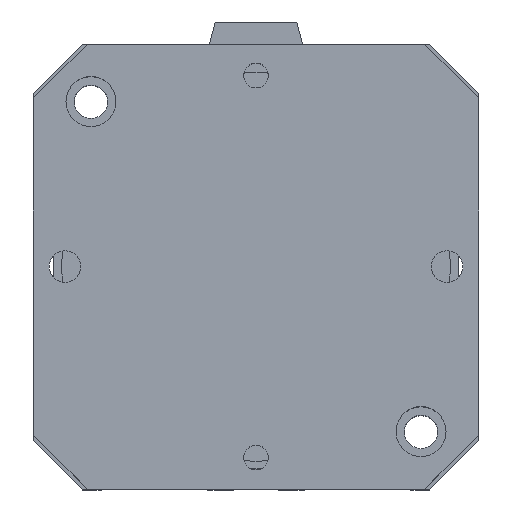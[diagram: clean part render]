
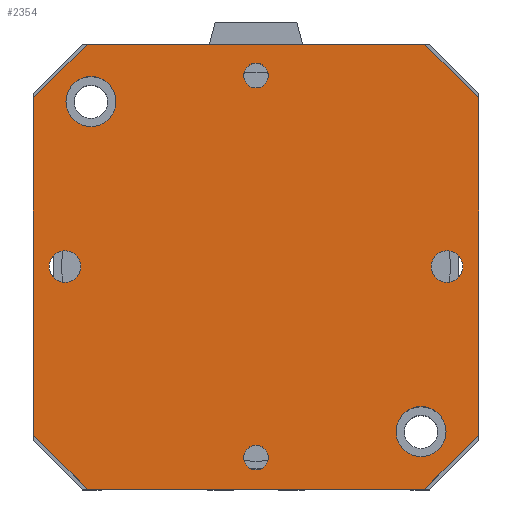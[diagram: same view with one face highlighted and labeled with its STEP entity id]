
A CAD part, top view. The second image highlights one B-rep face of the part: STEP entity #2354.
In plain terms, the highlighted planar face has unit normal (0, 0, 1).
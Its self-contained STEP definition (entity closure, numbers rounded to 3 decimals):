
#221=LINE('',#3869,#429);
#223=LINE('',#3873,#431);
#225=LINE('',#3877,#433);
#227=LINE('',#3881,#435);
#229=LINE('',#3885,#437);
#231=LINE('',#3889,#439);
#233=LINE('',#3893,#441);
#235=LINE('',#3896,#443);
#429=VECTOR('',#3196,91.);
#431=VECTOR('',#3200,20.506);
#433=VECTOR('',#3204,91.);
#435=VECTOR('',#3208,20.506);
#437=VECTOR('',#3212,91.);
#439=VECTOR('',#3216,20.506);
#441=VECTOR('',#3220,91.);
#443=VECTOR('',#3224,20.506);
#537=PLANE('',#2580);
#626=FACE_BOUND('',#956,.T.);
#627=FACE_BOUND('',#957,.T.);
#628=FACE_BOUND('',#958,.T.);
#629=FACE_BOUND('',#959,.T.);
#630=FACE_BOUND('',#960,.T.);
#631=FACE_BOUND('',#961,.T.);
#632=FACE_BOUND('',#962,.T.);
#956=EDGE_LOOP('',(#2134));
#957=EDGE_LOOP('',(#2135));
#958=EDGE_LOOP('',(#2136));
#959=EDGE_LOOP('',(#2137));
#960=EDGE_LOOP('',(#2138));
#961=EDGE_LOOP('',(#2139));
#962=EDGE_LOOP('',(#2140,#2141,#2142,#2143,#2144,#2145,#2146,#2147));
#1035=CIRCLE('',#2536,3.324);
#1037=CIRCLE('',#2539,3.324);
#1042=CIRCLE('',#2547,4.25);
#1046=CIRCLE('',#2554,4.25);
#1055=CIRCLE('',#2569,6.75);
#1056=CIRCLE('',#2571,6.75);
#1235=VERTEX_POINT('',#3787);
#1237=VERTEX_POINT('',#3792);
#1242=VERTEX_POINT('',#3805);
#1246=VERTEX_POINT('',#3816);
#1265=VERTEX_POINT('',#3860);
#1266=VERTEX_POINT('',#3863);
#1267=VERTEX_POINT('',#3866);
#1268=VERTEX_POINT('',#3868);
#1269=VERTEX_POINT('',#3872);
#1270=VERTEX_POINT('',#3876);
#1271=VERTEX_POINT('',#3880);
#1272=VERTEX_POINT('',#3884);
#1273=VERTEX_POINT('',#3888);
#1274=VERTEX_POINT('',#3892);
#1521=EDGE_CURVE('',#1235,#1235,#1035,.T.);
#1523=EDGE_CURVE('',#1237,#1237,#1037,.T.);
#1528=EDGE_CURVE('',#1242,#1242,#1042,.T.);
#1532=EDGE_CURVE('',#1246,#1246,#1046,.T.);
#1551=EDGE_CURVE('',#1265,#1265,#1055,.T.);
#1552=EDGE_CURVE('',#1266,#1266,#1056,.T.);
#1554=EDGE_CURVE('',#1268,#1267,#221,.T.);
#1556=EDGE_CURVE('',#1269,#1268,#223,.T.);
#1558=EDGE_CURVE('',#1270,#1269,#225,.T.);
#1560=EDGE_CURVE('',#1271,#1270,#227,.T.);
#1562=EDGE_CURVE('',#1272,#1271,#229,.T.);
#1564=EDGE_CURVE('',#1273,#1272,#231,.T.);
#1566=EDGE_CURVE('',#1274,#1273,#233,.T.);
#1568=EDGE_CURVE('',#1267,#1274,#235,.T.);
#2134=ORIENTED_EDGE('',*,*,#1521,.T.);
#2135=ORIENTED_EDGE('',*,*,#1523,.T.);
#2136=ORIENTED_EDGE('',*,*,#1528,.T.);
#2137=ORIENTED_EDGE('',*,*,#1532,.T.);
#2138=ORIENTED_EDGE('',*,*,#1551,.T.);
#2139=ORIENTED_EDGE('',*,*,#1552,.T.);
#2140=ORIENTED_EDGE('',*,*,#1568,.T.);
#2141=ORIENTED_EDGE('',*,*,#1566,.T.);
#2142=ORIENTED_EDGE('',*,*,#1564,.T.);
#2143=ORIENTED_EDGE('',*,*,#1562,.T.);
#2144=ORIENTED_EDGE('',*,*,#1560,.T.);
#2145=ORIENTED_EDGE('',*,*,#1558,.T.);
#2146=ORIENTED_EDGE('',*,*,#1556,.T.);
#2147=ORIENTED_EDGE('',*,*,#1554,.T.);
#2354=ADVANCED_FACE('',(#626,#627,#628,#629,#630,#631,#632),#537,.T.);
#2536=AXIS2_PLACEMENT_3D('',#3788,#3111,#3112);
#2539=AXIS2_PLACEMENT_3D('',#3793,#3117,#3118);
#2547=AXIS2_PLACEMENT_3D('',#3806,#3133,#3134);
#2554=AXIS2_PLACEMENT_3D('',#3817,#3147,#3148);
#2569=AXIS2_PLACEMENT_3D('',#3861,#3187,#3188);
#2571=AXIS2_PLACEMENT_3D('',#3864,#3191,#3192);
#2580=AXIS2_PLACEMENT_3D('',#3897,#3225,#3226);
#3111=DIRECTION('center_axis',(0.,0.,-1.));
#3112=DIRECTION('ref_axis',(1.,0.,0.));
#3117=DIRECTION('center_axis',(0.,0.,-1.));
#3118=DIRECTION('ref_axis',(1.,0.,0.));
#3133=DIRECTION('center_axis',(0.,0.,-1.));
#3134=DIRECTION('ref_axis',(1.,0.,0.));
#3147=DIRECTION('center_axis',(0.,0.,-1.));
#3148=DIRECTION('ref_axis',(1.,0.,0.));
#3187=DIRECTION('center_axis',(0.,0.,-1.));
#3188=DIRECTION('ref_axis',(-1.,0.,0.));
#3191=DIRECTION('center_axis',(0.,0.,-1.));
#3192=DIRECTION('ref_axis',(-1.,0.,0.));
#3196=DIRECTION('',(0.,1.,0.));
#3200=DIRECTION('',(0.707,0.707,0.));
#3204=DIRECTION('',(1.,0.,0.));
#3208=DIRECTION('',(0.707,-0.707,0.));
#3212=DIRECTION('',(0.,-1.,0.));
#3216=DIRECTION('',(-0.707,-0.707,0.));
#3220=DIRECTION('',(-1.,0.,0.));
#3224=DIRECTION('',(-0.707,0.707,0.));
#3225=DIRECTION('center_axis',(0.,0.,1.));
#3226=DIRECTION('ref_axis',(1.,0.,0.));
#3787=CARTESIAN_POINT('',(-54.824,0.,105.75));
#3788=CARTESIAN_POINT('Origin',(-51.5,0.,105.75));
#3792=CARTESIAN_POINT('',(48.177,0.,105.75));
#3793=CARTESIAN_POINT('Origin',(51.5,0.,105.75));
#3805=CARTESIAN_POINT('',(-4.25,51.5,105.75));
#3806=CARTESIAN_POINT('Origin',(0.,51.5,105.75));
#3816=CARTESIAN_POINT('',(-4.25,-51.5,105.75));
#3817=CARTESIAN_POINT('Origin',(0.,-51.5,105.75));
#3860=CARTESIAN_POINT('',(-37.75,-44.5,105.75));
#3861=CARTESIAN_POINT('Origin',(-44.5,-44.5,105.75));
#3863=CARTESIAN_POINT('',(51.25,44.5,105.75));
#3864=CARTESIAN_POINT('Origin',(44.5,44.5,105.75));
#3866=CARTESIAN_POINT('',(60.,45.5,105.75));
#3868=CARTESIAN_POINT('',(60.,-45.5,105.75));
#3869=CARTESIAN_POINT('',(60.,45.5,105.75));
#3872=CARTESIAN_POINT('',(45.5,-60.,105.75));
#3873=CARTESIAN_POINT('',(60.,-45.5,105.75));
#3876=CARTESIAN_POINT('',(-45.5,-60.,105.75));
#3877=CARTESIAN_POINT('',(45.5,-60.,105.75));
#3880=CARTESIAN_POINT('',(-60.,-45.5,105.75));
#3881=CARTESIAN_POINT('',(-45.5,-60.,105.75));
#3884=CARTESIAN_POINT('',(-60.,45.5,105.75));
#3885=CARTESIAN_POINT('',(-60.,-45.5,105.75));
#3888=CARTESIAN_POINT('',(-45.5,60.,105.75));
#3889=CARTESIAN_POINT('',(-60.,45.5,105.75));
#3892=CARTESIAN_POINT('',(45.5,60.,105.75));
#3893=CARTESIAN_POINT('',(-45.5,60.,105.75));
#3896=CARTESIAN_POINT('',(45.5,60.,105.75));
#3897=CARTESIAN_POINT('Origin',(0.,0.,105.75));
